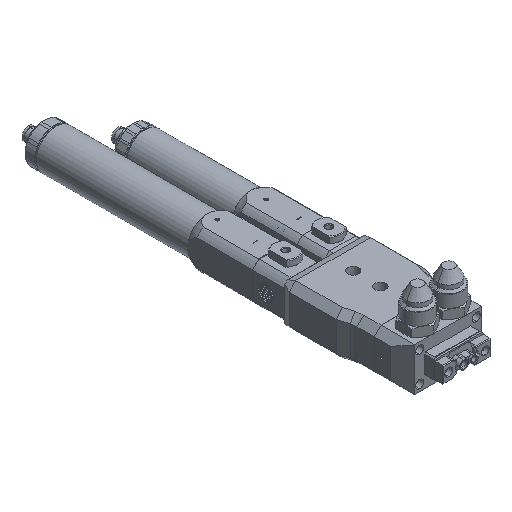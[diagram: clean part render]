
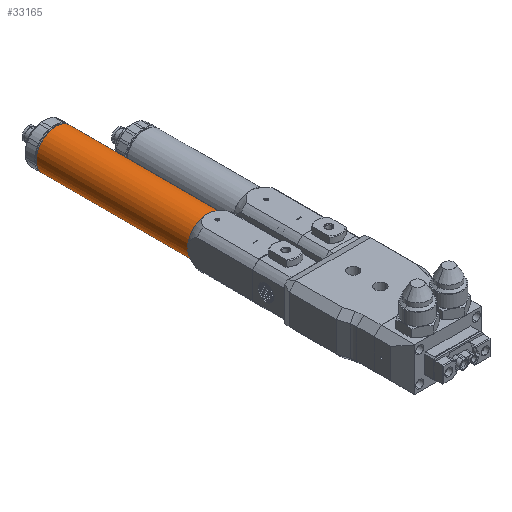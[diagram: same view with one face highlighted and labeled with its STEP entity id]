
A CAD part, isometric view. The second image highlights one B-rep face of the part: STEP entity #33165.
In plain terms, the highlighted cylindrical face has radius 14.5 mm (diameter 29 mm), a full revolution.
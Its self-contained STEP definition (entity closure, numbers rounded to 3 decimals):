
#939 = DIRECTION ( 'NONE',  ( 0., -1., 0. ) ) ;
#1289 = DIRECTION ( 'NONE',  ( 0., 0., -1. ) ) ;
#1342 = FACE_OUTER_BOUND ( 'NONE', #48052, .T. ) ;
#2322 = DIRECTION ( 'NONE',  ( 0., 1., 0. ) ) ;
#3069 = VERTEX_POINT ( 'NONE', #33975 ) ;
#6460 = CARTESIAN_POINT ( 'NONE',  ( -134.964, 137.825, 998.603 ) ) ;
#6510 = CYLINDRICAL_SURFACE ( 'NONE', #11723, 14.5 ) ;
#6846 = CARTESIAN_POINT ( 'NONE',  ( -134.964, 22.088, 998.603 ) ) ;
#8655 = EDGE_LOOP ( 'NONE', ( #51989, #37197 ) ) ;
#9143 = EDGE_CURVE ( 'NONE', #39473, #31181, #53474, .T. ) ;
#11723 = AXIS2_PLACEMENT_3D ( 'NONE', #6846, #27589, #32423 ) ;
#15411 = CARTESIAN_POINT ( 'NONE',  ( -134.964, 137.825, 1013.103 ) ) ;
#17066 = AXIS2_PLACEMENT_3D ( 'NONE', #58422, #52549, #67768 ) ;
#17234 = VERTEX_POINT ( 'NONE', #30139 ) ;
#18591 = AXIS2_PLACEMENT_3D ( 'NONE', #31978, #64119, #23892 ) ;
#19059 = ORIENTED_EDGE ( 'NONE', *, *, #68150, .T. ) ;
#20881 = AXIS2_PLACEMENT_3D ( 'NONE', #6460, #939, #1289 ) ;
#20951 = VERTEX_POINT ( 'NONE', #57219 ) ;
#21963 = AXIS2_PLACEMENT_3D ( 'NONE', #22676, #36308, #52192 ) ;
#22676 = CARTESIAN_POINT ( 'NONE',  ( -134.964, 26.025, 998.603 ) ) ;
#22728 = FACE_OUTER_BOUND ( 'NONE', #8655, .T. ) ;
#22910 = ORIENTED_EDGE ( 'NONE', *, *, #9143, .T. ) ;
#23892 = DIRECTION ( 'NONE',  ( 0., 0., -1. ) ) ;
#24210 = CIRCLE ( 'NONE', #40771, 14.5 ) ;
#27589 = DIRECTION ( 'NONE',  ( 0., -1., 0. ) ) ;
#28923 = DIRECTION ( 'NONE',  ( 0., 0., -1. ) ) ;
#30139 = CARTESIAN_POINT ( 'NONE',  ( -134.964, 26.025, 1013.103 ) ) ;
#30899 = DIRECTION ( 'NONE',  ( 0., 1., 0. ) ) ;
#31181 = VERTEX_POINT ( 'NONE', #35482 ) ;
#31978 = CARTESIAN_POINT ( 'NONE',  ( -134.964, 137.825, 998.603 ) ) ;
#32423 = DIRECTION ( 'NONE',  ( 0., 0., -1. ) ) ;
#33165 = ADVANCED_FACE ( 'NONE', ( #1342, #22728 ), #6510, .T. ) ;
#33975 = CARTESIAN_POINT ( 'NONE',  ( -134.964, 137.825, 984.103 ) ) ;
#34093 = CIRCLE ( 'NONE', #21963, 14.5 ) ;
#35482 = CARTESIAN_POINT ( 'NONE',  ( -134.964, 26.025, 984.103 ) ) ;
#36308 = DIRECTION ( 'NONE',  ( 0., 1., 0. ) ) ;
#37197 = ORIENTED_EDGE ( 'NONE', *, *, #37633, .T. ) ;
#37633 = EDGE_CURVE ( 'NONE', #3069, #44398, #60539, .T. ) ;
#38514 = CIRCLE ( 'NONE', #20881, 14.5 ) ;
#39473 = VERTEX_POINT ( 'NONE', #51219 ) ;
#40771 = AXIS2_PLACEMENT_3D ( 'NONE', #47147, #30899, #45537 ) ;
#43717 = CIRCLE ( 'NONE', #54754, 14.5 ) ;
#44398 = VERTEX_POINT ( 'NONE', #15411 ) ;
#45537 = DIRECTION ( 'NONE',  ( 0., 0., -1. ) ) ;
#45992 = ORIENTED_EDGE ( 'NONE', *, *, #54360, .T. ) ;
#47147 = CARTESIAN_POINT ( 'NONE',  ( -134.964, 26.025, 998.603 ) ) ;
#48052 = EDGE_LOOP ( 'NONE', ( #22910, #45992, #19059, #65760 ) ) ;
#49667 = CARTESIAN_POINT ( 'NONE',  ( -134.964, 26.025, 998.603 ) ) ;
#51219 = CARTESIAN_POINT ( 'NONE',  ( -120.464, 26.025, 998.603 ) ) ;
#51989 = ORIENTED_EDGE ( 'NONE', *, *, #54313, .T. ) ;
#52192 = DIRECTION ( 'NONE',  ( 0., 0., -1. ) ) ;
#52549 = DIRECTION ( 'NONE',  ( 0., 1., 0. ) ) ;
#53474 = CIRCLE ( 'NONE', #17066, 14.5 ) ;
#54313 = EDGE_CURVE ( 'NONE', #44398, #3069, #38514, .T. ) ;
#54360 = EDGE_CURVE ( 'NONE', #31181, #20951, #34093, .T. ) ;
#54754 = AXIS2_PLACEMENT_3D ( 'NONE', #49667, #2322, #28923 ) ;
#57219 = CARTESIAN_POINT ( 'NONE',  ( -149.464, 26.025, 998.603 ) ) ;
#58422 = CARTESIAN_POINT ( 'NONE',  ( -134.964, 26.025, 998.603 ) ) ;
#60539 = CIRCLE ( 'NONE', #18591, 14.5 ) ;
#63745 = EDGE_CURVE ( 'NONE', #17234, #39473, #43717, .T. ) ;
#64119 = DIRECTION ( 'NONE',  ( 0., -1., 0. ) ) ;
#65760 = ORIENTED_EDGE ( 'NONE', *, *, #63745, .T. ) ;
#67768 = DIRECTION ( 'NONE',  ( 0., 0., -1. ) ) ;
#68150 = EDGE_CURVE ( 'NONE', #20951, #17234, #24210, .T. ) ;
